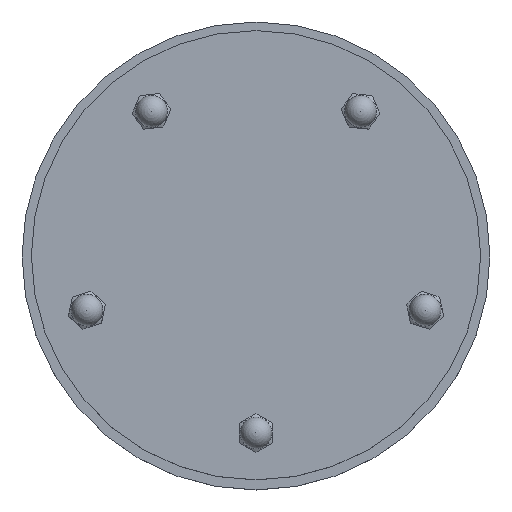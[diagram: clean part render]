
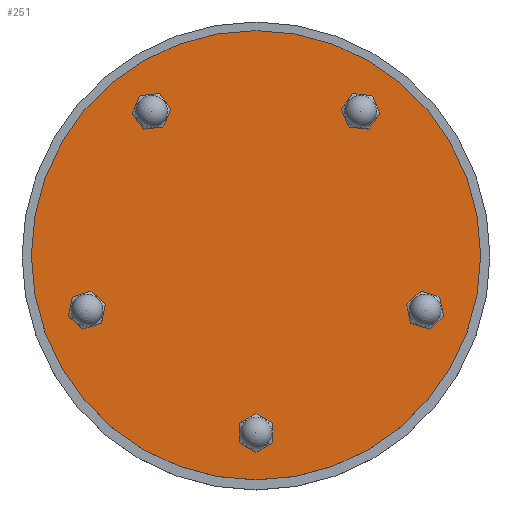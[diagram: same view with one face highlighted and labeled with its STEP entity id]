
A CAD part, top view. The second image highlights one B-rep face of the part: STEP entity #251.
In plain terms, the highlighted planar face has unit normal (0, 0, 1).
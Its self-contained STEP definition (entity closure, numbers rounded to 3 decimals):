
#251=ADVANCED_FACE('',(#976,#978,#980,#982),#984,.T.);
#976=FACE_BOUND('',#977,.T.);
#977=EDGE_LOOP('',(#1869));
#978=FACE_BOUND('',#979,.T.);
#979=EDGE_LOOP('',(#1870));
#980=FACE_BOUND('',#981,.T.);
#981=EDGE_LOOP('',(#1871));
#982=FACE_BOUND('',#983,.T.);
#983=EDGE_LOOP('',(#1872));
#984=PLANE('',#985);
#985=AXIS2_PLACEMENT_3D('',#986,#987,#988);
#986=CARTESIAN_POINT('',(0.,0.,248.));
#987=DIRECTION('',(0.,0.,1.));
#988=DIRECTION('',(-1.,0.,0.));
#1869=ORIENTED_EDGE('',*,*,#2301,.F.);
#1870=ORIENTED_EDGE('',*,*,#2302,.F.);
#1871=ORIENTED_EDGE('',*,*,#2303,.F.);
#1872=ORIENTED_EDGE('',*,*,#2304,.F.);
#2301=EDGE_CURVE('',#2487,#2487,#2488,.T.);
#2302=EDGE_CURVE('',#2489,#2489,#2490,.T.);
#2303=EDGE_CURVE('',#2491,#2491,#2492,.T.);
#2304=EDGE_CURVE('',#2493,#2493,#2494,.T.);
#2487=VERTEX_POINT('',#2794);
#2488=CIRCLE('',#2795,120.);
#2489=VERTEX_POINT('',#2799);
#2490=CIRCLE('',#2800,8.1);
#2491=VERTEX_POINT('',#2804);
#2492=CIRCLE('',#2805,8.1);
#2493=VERTEX_POINT('',#2809);
#2494=CIRCLE('',#2810,8.1);
#2794=CARTESIAN_POINT('',(-120.,0.,248.));
#2795=AXIS2_PLACEMENT_3D('',#2796,#2797,#2798);
#2796=CARTESIAN_POINT('',(0.,0.,248.));
#2797=DIRECTION('',(0.,0.,-1.));
#2798=DIRECTION('',(-1.,0.,0.));
#2799=CARTESIAN_POINT('',(-60.601,83.41,248.));
#2800=AXIS2_PLACEMENT_3D('',#2801,#2802,#2803);
#2801=CARTESIAN_POINT('',(-55.84,76.857,248.));
#2802=DIRECTION('',(0.,0.,1.));
#2803=DIRECTION('',(-0.588,0.809,0.));
#2804=CARTESIAN_POINT('',(0.,-103.1,248.));
#2805=AXIS2_PLACEMENT_3D('',#2806,#2807,#2808);
#2806=CARTESIAN_POINT('',(0.,-95.,248.));
#2807=DIRECTION('',(0.,0.,1.));
#2808=DIRECTION('',(0.,-1.,0.));
#2809=CARTESIAN_POINT('',(-98.054,-31.86,248.));
#2810=AXIS2_PLACEMENT_3D('',#2811,#2812,#2813);
#2811=CARTESIAN_POINT('',(-90.35,-29.357,248.));
#2812=DIRECTION('',(0.,0.,1.));
#2813=DIRECTION('',(-0.951,-0.309,0.));
